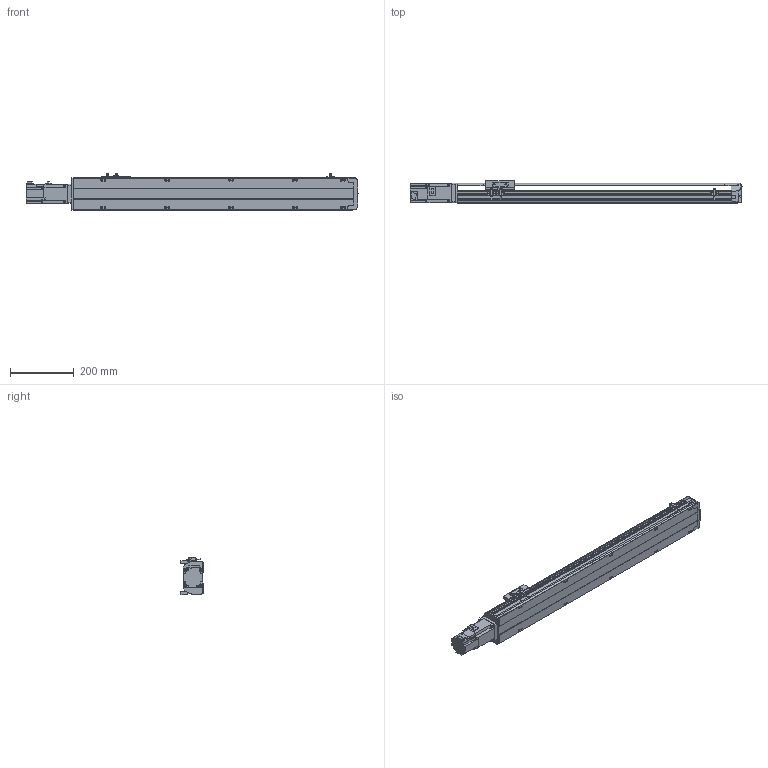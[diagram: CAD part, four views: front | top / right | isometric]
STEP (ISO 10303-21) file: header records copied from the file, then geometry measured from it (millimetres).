
FILE_DESCRIPTION( ( 'STEP AP214' ), '1' );
FILE_NAME( 'x:/temp/worker_13/temp/exporttempdir_3252_147_H2BRR/format_0/PSS120-L10-S650-BC-T40-C1-N(0).stp', '2022-06-02T00:33:19', ( 'License CC BY-ND 4.0' ), ( 'CADENAS' ), ' ', 'PARTsolutions', ' ' );
FILE_SCHEMA( ( 'AUTOMOTIVE_DESIGN { 1 0 10303 214 1 1 1 1 }' ) );
Length unit declared in the file: millimetre
Products named in the file (8): PSS120-L10-S650-BC-T40-C1-N(0); _PSS120-S650-BC-C1-N_body; _PSS120-N_Q; _PSS120-BC-C1-N_sl; _PSS120-N_sensor; _PSS120BC-N_h; _T40-p1; _PSS120-S650-BC-N_S
Assembly tree (9 placements, depth 2):
  PSS120-L10-S650-BC-T40-C1-N(0)
    _PSS120-S650-BC-C1-N_body
    _PSS120-N_Q
    _PSS120-BC-C1-N_sl
    _PSS120-N_sensor  x3
    _PSS120BC-N_h
    _T40-p1
    _PSS120-S650-BC-N_S
Bounding box: 1038.7 x 70 x 117.7 mm (x, y, z)
Volume: 3341952.7 mm3; surface area: 601333.5 mm2
Topology: 9 solids, 9 shells, 817 faces, 2184 edges, 1448 vertices
Faces by surface type: plane 553, cylinder 242, cone 22
Full cylindrical faces by diameter (mm): 2.8 x3, 4 x4, 4.134 x14, 4.2 x4, 4.4 x2, 4.5 x4, 4.6 x3, 4.917 x4, 5 x6, 5.5 x17, 7 x2, 8 x8, 8.5 x14, 14 x1, 28 x1, 32 x1, 50 x1
Entity records: 27917 total; most frequent: CARTESIAN_POINT 4298, DIRECTION 3673, ORIENTED_EDGE 3550, EDGE_CURVE 1775, LINE 1243, VECTOR 1243, VERTEX_POINT 1238, AXIS2_PLACEMENT_3D 1215
